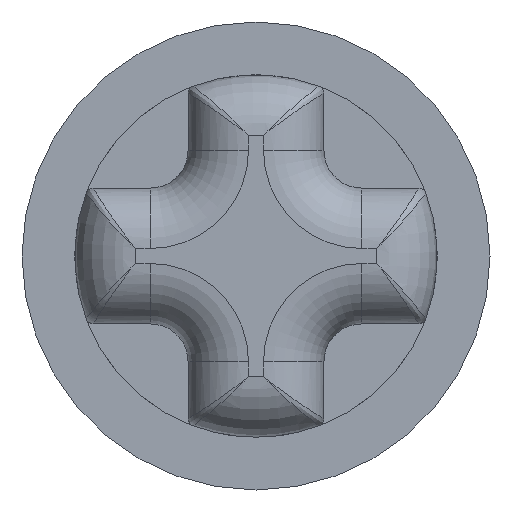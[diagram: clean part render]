
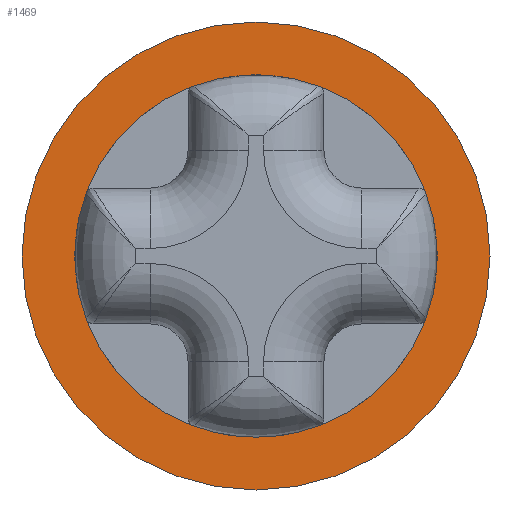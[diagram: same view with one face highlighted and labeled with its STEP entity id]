
A CAD part, front view. The second image highlights one B-rep face of the part: STEP entity #1469.
In plain terms, the highlighted planar face has unit normal (0, -1, 0).
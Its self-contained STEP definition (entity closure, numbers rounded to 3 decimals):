
#322=ORIENTED_EDGE('',*,*,#776,.T.);
#323=ORIENTED_EDGE('',*,*,#777,.F.);
#776=EDGE_CURVE('',#1003,#1003,#1134,.T.);
#777=EDGE_CURVE('',#1004,#1004,#1135,.T.);
#1003=VERTEX_POINT('',#2240);
#1004=VERTEX_POINT('',#2242);
#1134=CIRCLE('',#1585,3.1);
#1135=CIRCLE('',#1586,2.4);
#1233=EDGE_LOOP('',(#322));
#1234=EDGE_LOOP('',(#323));
#1339=FACE_BOUND('',#1233,.T.);
#1340=FACE_BOUND('',#1234,.T.);
#1445=PLANE('',#1584);
#1469=ADVANCED_FACE('',(#1339,#1340),#1445,.T.);
#1584=AXIS2_PLACEMENT_3D('',#2238,#1771,#1772);
#1585=AXIS2_PLACEMENT_3D('',#2239,#1773,#1774);
#1586=AXIS2_PLACEMENT_3D('',#2241,#1775,#1776);
#1771=DIRECTION('',(0.,-1.,0.));
#1772=DIRECTION('',(0.,0.,-1.));
#1773=DIRECTION('',(0.,-1.,0.));
#1774=DIRECTION('',(0.,0.,-1.));
#1775=DIRECTION('',(0.,-1.,0.));
#1776=DIRECTION('',(0.,0.,-1.));
#2238=CARTESIAN_POINT('',(0.,36.,0.));
#2239=CARTESIAN_POINT('',(0.,36.,0.));
#2240=CARTESIAN_POINT('',(0.,36.,-3.1));
#2241=CARTESIAN_POINT('',(0.,36.,0.));
#2242=CARTESIAN_POINT('',(0.,36.,-2.4));
